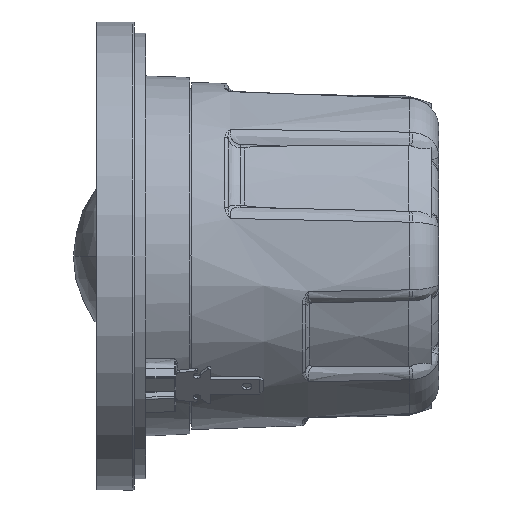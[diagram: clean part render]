
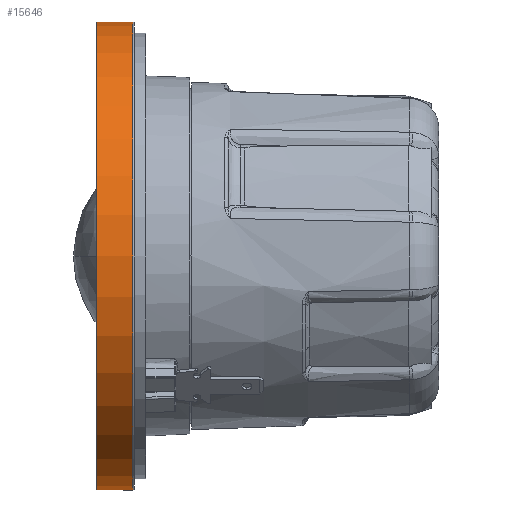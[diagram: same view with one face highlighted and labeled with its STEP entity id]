
A CAD part, left-side view. The second image highlights one B-rep face of the part: STEP entity #15646.
In plain terms, the highlighted cylindrical face has radius 31 mm (diameter 62 mm), a partial arc.
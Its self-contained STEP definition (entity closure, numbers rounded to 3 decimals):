
#341 = VECTOR ( 'NONE', #27322, 1000. ) ;
#809 = EDGE_CURVE ( 'NONE', #21074, #10338, #16211, .T. ) ;
#848 = VERTEX_POINT ( 'NONE', #26219 ) ;
#1021 = ORIENTED_EDGE ( 'NONE', *, *, #5778, .T. ) ;
#2335 = DIRECTION ( 'NONE',  ( 0., 0., -1. ) ) ;
#3232 = AXIS2_PLACEMENT_3D ( 'NONE', #18911, #9477, #11943 ) ;
#5778 = EDGE_CURVE ( 'NONE', #8123, #848, #17208, .T. ) ;
#6396 = AXIS2_PLACEMENT_3D ( 'NONE', #8346, #18422, #18756 ) ;
#8123 = VERTEX_POINT ( 'NONE', #30122 ) ;
#8346 = CARTESIAN_POINT ( 'NONE',  ( 0., 16.492, 0. ) ) ;
#8393 = VECTOR ( 'NONE', #26093, 1000. ) ;
#8545 = EDGE_LOOP ( 'NONE', ( #8775, #1021, #29511, #27446 ) ) ;
#8609 = CARTESIAN_POINT ( 'NONE',  ( 0., 16.492, 31. ) ) ;
#8775 = ORIENTED_EDGE ( 'NONE', *, *, #12384, .F. ) ;
#9227 = EDGE_CURVE ( 'NONE', #848, #21074, #12948, .T. ) ;
#9477 = DIRECTION ( 'NONE',  ( 0., -1., 0. ) ) ;
#10338 = VERTEX_POINT ( 'NONE', #8609 ) ;
#11388 = CARTESIAN_POINT ( 'NONE',  ( 0., 16.492, -31. ) ) ;
#11943 = DIRECTION ( 'NONE',  ( 0., 0., -1. ) ) ;
#12384 = EDGE_CURVE ( 'NONE', #8123, #10338, #20594, .T. ) ;
#12667 = CYLINDRICAL_SURFACE ( 'NONE', #14867, 31. ) ;
#12948 = LINE ( 'NONE', #17355, #341 ) ;
#14630 = CARTESIAN_POINT ( 'NONE',  ( 0., 16.992, 0. ) ) ;
#14867 = AXIS2_PLACEMENT_3D ( 'NONE', #14630, #24547, #2335 ) ;
#15646 = ADVANCED_FACE ( 'NONE', ( #25041 ), #12667, .T. ) ;
#16211 = CIRCLE ( 'NONE', #6396, 31. ) ;
#17208 = CIRCLE ( 'NONE', #3232, 31. ) ;
#17355 = CARTESIAN_POINT ( 'NONE',  ( 0., 16.992, -31. ) ) ;
#18422 = DIRECTION ( 'NONE',  ( 0., 1., 0. ) ) ;
#18756 = DIRECTION ( 'NONE',  ( 0., 0., -1. ) ) ;
#18911 = CARTESIAN_POINT ( 'NONE',  ( 0., 21.292, 0. ) ) ;
#20594 = LINE ( 'NONE', #30876, #8393 ) ;
#21074 = VERTEX_POINT ( 'NONE', #11388 ) ;
#24547 = DIRECTION ( 'NONE',  ( 0., -1., 0. ) ) ;
#25041 = FACE_OUTER_BOUND ( 'NONE', #8545, .T. ) ;
#26093 = DIRECTION ( 'NONE',  ( 0., -1., 0. ) ) ;
#26219 = CARTESIAN_POINT ( 'NONE',  ( 0., 21.292, -31. ) ) ;
#27322 = DIRECTION ( 'NONE',  ( 0., -1., 0. ) ) ;
#27446 = ORIENTED_EDGE ( 'NONE', *, *, #809, .T. ) ;
#29511 = ORIENTED_EDGE ( 'NONE', *, *, #9227, .T. ) ;
#30122 = CARTESIAN_POINT ( 'NONE',  ( 0., 21.292, 31. ) ) ;
#30876 = CARTESIAN_POINT ( 'NONE',  ( 0., 16.992, 31. ) ) ;
